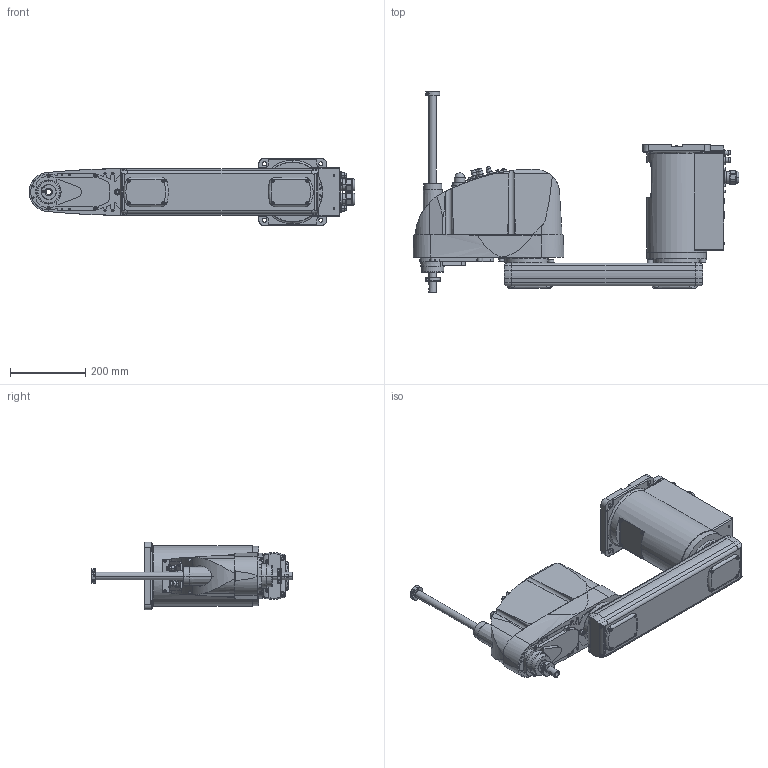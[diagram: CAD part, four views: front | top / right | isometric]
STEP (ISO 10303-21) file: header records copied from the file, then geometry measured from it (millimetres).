
FILE_DESCRIPTION( ( '' ), '1' );
FILE_NAME( '//expscmdclustefs.cadenas.external/client_exchange/iodir/jobs/output/wkb51545261_no0/STEP/G6_653SR_2_14b.stp', '2012-11-23T12:39:20', ( '' ), ( '' ), ' ', ' ', ' ' );
FILE_SCHEMA( ( 'automotive_design' ) );
Length unit declared in the file: millimetre
Products named in the file (4): 1; 2; 3; 4
Bounding box: 867.5 x 535 x 180 mm (x, y, z)
Volume: 20908730.7 mm3; surface area: 921134.8 mm2
Topology: 4 solids, 4 shells, 1607 faces, 3933 edges, 2535 vertices
Faces by surface type: plane 823, cylinder 554, cone 202, torus 27, sphere 1
Entity records: 95401 total; most frequent: CARTESIAN_POINT 11572, DIRECTION 8268, STYLED_ITEM 8053, PRESENTATION_STYLE_ASSIGNMENT 8053, COLOUR_RGB 8053, ORIENTED_EDGE 7814, EDGE_CURVE 3907, CURVE_STYLE 3907
